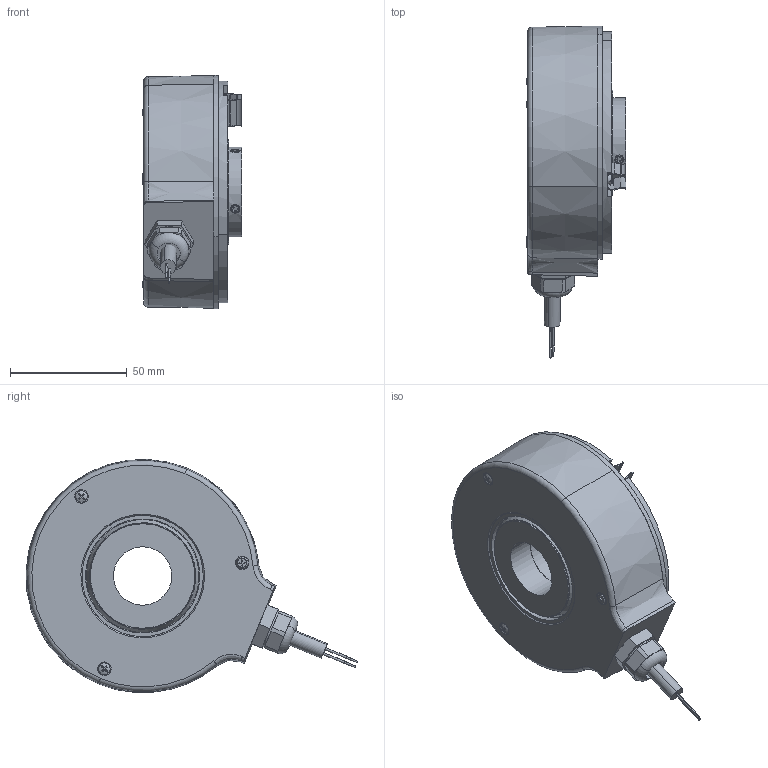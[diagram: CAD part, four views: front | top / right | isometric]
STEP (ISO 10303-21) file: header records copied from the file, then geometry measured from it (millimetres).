
FILE_DESCRIPTION (( 'STEP AP203' ), '1' );
FILE_NAME ('8.A020.25X1.XXXX.STEP', '2012-10-18T07:39:21', ( 'Hodot' ), ( '' ), 'SwSTEP 2.0', 'SolidWorks 2012', '' );
FILE_SCHEMA (( 'CONFIG_CONTROL_DESIGN' ));
Length unit declared in the file: millimetre
Products named in the file (1): 8.A020.25X1.XXXX
Bounding box: 42.6 x 142.2 x 99.91 mm (x, y, z)
Volume: 170141 mm3; surface area: 86873 mm2
Topology: 19 solids, 19 shells, 638 faces, 1616 edges, 999 vertices
Faces by surface type: cylinder 218, plane 201, cone 115, sphere 52, torus 48, bspline 4
Entity records: 20777 total; most frequent: CARTESIAN_POINT 5781, DIRECTION 3311, ORIENTED_EDGE 2924, EDGE_CURVE 1462, AXIS2_PLACEMENT_3D 1362, VERTEX_POINT 927, EDGE_LOOP 787, CIRCLE 727
